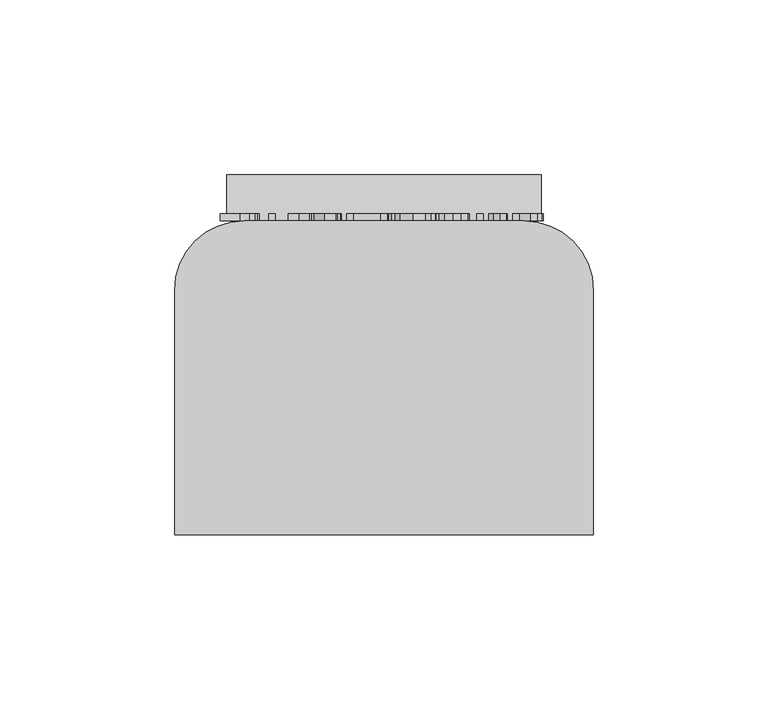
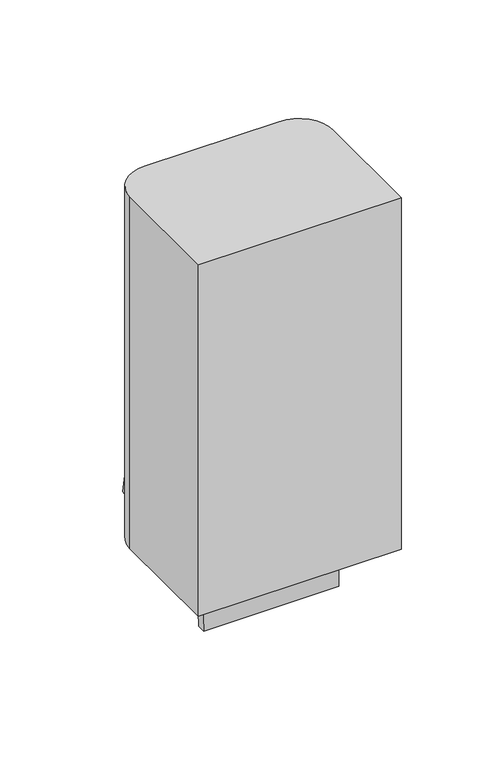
"""IFC4 building model written with IfcOpenShell, lengths in millimetres: furniture geometry, BIMHealth-Soap_Dispenser-LOD2A-v1 : BIMHealth-Soap_Dispenser-LOD2A-v1."""

from ifc_helpers import new_model, si_unit, point, frame, frame_2d, origin, place, context, project, spatial, polyline, circle_curve, trimmed, segment, composite_curve, outline, extrude, source, transform, mapped, element, save
from ifc_brep_helpers import plane_surface, cylinder_surface, advanced_brep


def furniture_4cbdd32b(model_context):
    return source(origin(), model_context, "Body", "SolidModel", [
        extrude(outline(polyline([(1382.8683672, 13.1382718), (1382.8683672, 18.7308199), (1383.1225739, 21.0980074), (1383.8725739, 22.7043776), (1385.2860355, 23.7806997), (1387.2710114, 24.2151949), (1389.5678864, 23.5787766), (1390.9452903, 21.7596661), (1392.2523816, 23.2578632), (1393.9777422, 23.7536565), (1395.8671653, 23.1641132), (1397.2031028, 21.5343055), (1397.637598, 18.7740891), (1397.637598, 13.1382718), (1382.8683672, 13.1382718)]), holes=[polyline([(1384.714521, 14.9844257), (1389.7914441, 14.9844257), (1389.7914441, 18.5901949), (1384.714521, 18.7704834), (1384.714521, 14.9844257)]), polyline([(1391.637598, 14.9844257), (1395.7914441, 14.9844257), (1395.7914441, 18.0998103), (1391.7962518, 20.3245699), (1391.637598, 18.3558199), (1391.637598, 14.9844257)])]), frame((0.0, 90.0, 0.0), z_axis=(0.0, 1.0, 0.0), x_axis=(0.0, 0.0, 1.0)), (0.0, 0.0, 1.0), 2.0),
        extrude(outline(polyline([(28.8305795, 92.0), (28.8305795, 90.0), (26.9844257, 90.0), (26.9844257, 92.0), (28.8305795, 92.0)])), frame((0.0, 0.0, 1382.8683672), z_axis=(0.0, 0.0, 1.0), x_axis=(1.0, 0.0, 0.0)), (0.0, 0.0, 1.0), 14.7692308),
        extrude(outline(polyline([(1382.8683672, 32.5228872), (1382.8683672, 34.3690411), (1395.7914441, 34.3690411), (1382.8683672, 38.0829834), (1382.8683672, 40.5817815), (1395.7914441, 44.292118), (1382.8683672, 44.292118), (1382.8683672, 46.1382718), (1397.637598, 46.1382718), (1397.637598, 42.9615891), (1387.4080307, 39.9904353), (1385.0534634, 39.3305795), (1387.2277422, 38.7175988), (1397.637598, 35.6887526), (1397.637598, 32.5228872), (1382.8683672, 32.5228872)])), frame((0.0, 90.0, 0.0), z_axis=(0.0, 1.0, 0.0), x_axis=(0.0, 0.0, 1.0)), (0.0, 0.0, 1.0), 2.0),
        extrude(outline(polyline([(1382.8683672, 49.3690411), (1382.8683672, 51.2151949), (1389.7914441, 51.2151949), (1389.7914441, 59.0613488), (1382.8683672, 59.0613488), (1382.8683672, 60.9075026), (1397.637598, 60.9075026), (1397.637598, 59.0613488), (1391.637598, 59.0613488), (1391.637598, 51.2151949), (1397.637598, 51.2151949), (1397.637598, 49.3690411), (1382.8683672, 49.3690411)])), frame((0.0, 90.0, 0.0), z_axis=(0.0, 1.0, 0.0), x_axis=(0.0, 0.0, 1.0)), (0.0, 0.0, 1.0), 2.0),
        extrude(outline(polyline([(1386.0991364, 71.5012526), (1384.8695691, 70.3113488), (1384.4837518, 68.5012526), (1385.3166845, 66.1232478), (1387.714521, 65.0613488), (1388.2121172, 73.3690411), (1392.4416845, 71.9681997), (1393.9452903, 68.3606276), (1392.4380787, 64.6466853), (1388.2012999, 63.2151949), (1384.0997374, 64.6322622), (1382.637598, 68.4651949), (1383.4849537, 71.6184401), (1385.8683672, 73.3113488), (1386.0991364, 71.5012526)]), holes=[polyline([(1389.5606749, 65.0613488), (1391.4086316, 66.0799786), (1392.0991364, 68.3534161), (1391.2337518, 70.7837045), (1389.5606749, 71.5228872), (1389.5606749, 65.0613488)])]), frame((0.0, 90.0, 0.0), z_axis=(0.0, 1.0, 0.0), x_axis=(0.0, 0.0, 1.0)), (0.0, 0.0, 1.0), 2.0),
        extrude(outline(polyline([(1383.5606749, 82.3690411), (1382.8683672, 84.4459641), (1384.4206509, 84.0781757), (1387.6279826, 83.9844257), (1389.9248576, 83.9844257), (1393.6171653, 82.0643536), (1393.9452903, 79.8269738), (1393.573896, 77.3912766), (1392.5174057, 75.7831036), (1390.714521, 74.9844257), (1391.7439682, 77.7212045), (1392.0991364, 79.588993), (1389.7914441, 82.1274545), (1389.1568287, 78.9255315), (1385.7529826, 74.7536565), (1383.5137999, 75.6893536), (1382.637598, 78.370243), (1383.0017807, 80.3480074), (1383.5606749, 82.3690411)]), holes=[polyline([(1386.9699297, 81.9868295), (1384.9254585, 80.6310603), (1384.4837518, 78.7632718), (1387.0799057, 77.5715651), (1387.3791845, 79.1599065), (1386.9699297, 81.9868295)])]), frame((0.0, 90.0, 0.0), z_axis=(0.0, 1.0, 0.0), x_axis=(0.0, 0.0, 1.0)), (0.0, 0.0, 1.0), 2.0),
        extrude(outline(polyline([(88.3690411, 92.0), (88.3690411, 90.0), (86.5228872, 90.0), (86.5228872, 92.0), (88.3690411, 92.0)])), frame((0.0, 0.0, 1382.8683672), z_axis=(0.0, 0.0, 1.0), x_axis=(1.0, 0.0, 0.0)), (0.0, 0.0, 1.0), 14.7692308),
        extrude(outline(polyline([(1385.152622, 94.1382718), (1391.8683672, 93.2151949), (1391.8683672, 95.0613488), (1393.714521, 95.0613488), (1393.714521, 93.2151949), (1397.4356749, 93.2151949), (1396.3503384, 91.3690411), (1393.714521, 89.9844257), (1391.8683672, 91.3690411), (1385.8431268, 91.3690411), (1382.8142807, 95.292118), (1385.152622, 94.1382718)])), frame((0.0, 90.0, 0.0), z_axis=(0.0, 1.0, 0.0), x_axis=(0.0, 0.0, 1.0)), (0.0, 0.0, 1.0), 2.0),
        extrude(outline(polyline([(1382.8683672, 96.9075026), (1382.8683672, 98.7536565), (1388.6303864, 98.7536565), (1392.0991364, 101.5769738), (1391.4897614, 103.2428391), (1389.542646, 103.8305795), (1382.8683672, 103.8305795), (1382.8683672, 105.6767334), (1389.7337518, 105.6767334), (1392.1604345, 105.2981276), (1393.4711316, 104.0397141), (1393.9452903, 101.9663968), (1392.2073095, 98.7536565), (1397.637598, 98.7536565), (1397.637598, 96.9075026), (1382.8683672, 96.9075026)])), frame((0.0, 90.0, 0.0), z_axis=(0.0, 1.0, 0.0), x_axis=(0.0, 0.0, 1.0)), (0.0, 0.0, 1.0), 2.0),
        extrude(outline(polyline([(1312.9452903, 36.1959641), (1310.1255787, 36.9928391), (1308.2577903, 39.0787766), (1307.637598, 42.3762526), (1308.2127182, 45.1689209), (1309.824497, 47.072767), (1312.0330307, 47.7344257), (1314.120771, 47.1593055), (1315.6171653, 45.3726468), (1316.543848, 42.1058199), (1318.855146, 38.5036565), (1320.387598, 39.3329834), (1321.0222134, 41.9760122), (1320.3803864, 44.6118295), (1318.4837518, 45.6575026), (1318.4837518, 47.5036565), (1320.7950499, 46.7716853), (1322.3419249, 44.8245699), (1322.8683672, 41.9038968), (1322.3653624, 39.167118), (1320.8906028, 37.2975266), (1318.8010595, 36.6575026), (1316.965723, 37.1749305), (1315.5919249, 38.745243), (1314.6814682, 41.6388728), (1309.8208912, 44.2332238), (1309.4837518, 42.3041372), (1309.9290643, 40.0901949), (1311.0973335, 38.6370699), (1312.9452903, 38.042118), (1312.9452903, 36.1959641)])), frame((0.0, 90.0, 0.0), z_axis=(0.0, 1.0, 0.0), x_axis=(0.0, 0.0, 1.0)), (0.0, 0.0, 1.0), 2.0),
        extrude(outline(polyline([(1313.2914441, 49.8113488), (1309.0943287, 51.150892), (1307.637598, 54.6611084), (1308.2992566, 57.1617093), (1310.1580307, 58.9050988), (1313.4428864, 59.5036565), (1317.4831509, 58.1496901), (1318.9452903, 54.6611084), (1317.7445691, 51.4087045), (1313.2914441, 49.8113488)]), holes=[polyline([(1313.2950499, 51.6575026), (1316.152622, 52.5120699), (1317.0991364, 54.6611084), (1316.1490162, 56.7975266), (1313.3527422, 57.6575026), (1310.4392807, 56.8029353), (1309.4837518, 54.6611084), (1310.433872, 52.5120699), (1313.2950499, 51.6575026)])]), frame((0.0, 90.0, 0.0), z_axis=(0.0, 1.0, 0.0), x_axis=(0.0, 0.0, 1.0)), (0.0, 0.0, 1.0), 2.0),
        extrude(outline(polyline([(1308.5606749, 68.7344257), (1307.8683672, 70.8113488), (1309.4206509, 70.4435603), (1312.6279826, 70.3498103), (1314.9248576, 70.3498103), (1318.6171653, 68.4297382), (1318.9452903, 66.1923584), (1318.573896, 63.7566613), (1317.5174057, 62.1484882), (1315.714521, 61.3498103), (1316.7439682, 64.0865891), (1317.0991364, 65.9543776), (1314.7914441, 68.4928391), (1314.1568287, 65.2909161), (1310.7529826, 61.1190411), (1308.5137999, 62.0547382), (1307.637598, 64.7356276), (1308.0017807, 66.713392), (1308.5606749, 68.7344257)]), holes=[polyline([(1311.9699297, 68.3522141), (1309.9254585, 66.9964449), (1309.4837518, 65.1286565), (1312.0799057, 63.9369497), (1312.3791845, 65.5252911), (1311.9699297, 68.3522141)])]), frame((0.0, 90.0, 0.0), z_axis=(0.0, 1.0, 0.0), x_axis=(0.0, 0.0, 1.0)), (0.0, 0.0, 1.0), 2.0),
        extrude(outline(polyline([(1303.714521, 72.8882718), (1303.714521, 74.7344257), (1309.3106749, 74.7344257), (1308.1117566, 75.9044978), (1307.637598, 77.510868), (1308.3461316, 79.8456036), (1310.3833912, 81.5367093), (1313.3743768, 82.1190411), (1316.2193287, 81.6034161), (1318.231348, 80.0745699), (1318.9452903, 77.7344257), (1318.4350739, 76.010868), (1316.9044249, 74.7344257), (1318.714521, 74.7344257), (1318.714521, 72.8882718), (1303.714521, 72.8882718)]), holes=[polyline([(1313.2049057, 74.7344257), (1316.1021412, 75.5871901), (1317.0991364, 77.5469257), (1316.1616364, 79.4688007), (1313.3419249, 80.2728872), (1310.4248576, 79.448969), (1309.4837518, 77.4712045), (1310.3924057, 75.5331036), (1313.2049057, 74.7344257)])]), frame((0.0, 90.0, 0.0), z_axis=(0.0, 1.0, 0.0), x_axis=(0.0, 0.0, 1.0)), (0.0, 0.0, 1.0), 2.0),
        extrude(outline(composite_curve([segment(trimmed(circle_curve(frame_2d((60.0, 61.6073569)), 10.0), [point((50.0, 61.6073569))], [point((70.0, 61.6073569))], False, "CARTESIAN"), True, "CONTINUOUS"), segment(trimmed(circle_curve(frame_2d((60.0, 61.6073569)), 10.0), [point((70.0, 61.6073569))], [point((50.0, 61.6073569))], False, "CARTESIAN"), True, "CONTINUOUS")], self_intersect=False)), frame((0.0, 0.0, 1190.0), z_axis=(0.0, 0.0, 1.0), x_axis=(1.0, 0.0, 0.0)), (0.0, 0.0, 1.0), 10.0),
        advanced_brep(
        [(105.0, 90.0, 1285.0), (105.0, 90.0, 1207.6681597), (105.0, 103.2245236, 1210.0), (15.0, 90.0, 1285.0), (15.0, 103.2245236, 1210.0), (15.0, 90.0, 1207.6681597), (20.0, 90.0, 1285.0), (100.0, 90.0, 1285.0), (100.0, 90.0, 1207.6681597), (20.0, 90.0, 1207.6681597), (120.0, 0.0, 1420.0), (120.0, 70.0, 1420.0), (100.0, 90.0, 1420.0), (20.0, 90.0, 1420.0), (0.0, 70.0, 1420.0), (0.0, 0.0, 1420.0), (120.0, 0.0, 1200.0), (0.0, 0.0, 1200.0), (0.0, 70.0, 1200.0), (20.0, 90.0, 1200.0), (100.0, 90.0, 1200.0), (120.0, 70.0, 1200.0)],
        [
            (0, 1),
            (1, 2),
            (2, 0),
            (3, 4),
            (4, 5),
            (5, 3),
            (2, 4),
            (3, 6),
            (6, 7),
            (7, 0),
            (1, 8),
            (8, 9),
            (9, 5),
            (7, 8),
            (9, 6),
            (10, 11),
            (11, 12, circle_curve(frame((100.0, 70.0, 1420.0), z_axis=(0.0, 0.0, 1.0), x_axis=(-1.0, 0.0, 0.0)), 20.0)),
            (12, 13),
            (13, 14, circle_curve(frame((20.0, 70.0, 1420.0), z_axis=(0.0, 0.0, 1.0), x_axis=(1.0, 0.0, 0.0)), 20.0)),
            (14, 15),
            (15, 10),
            (16, 17),
            (17, 18),
            (18, 19, circle_curve(frame((20.0, 70.0, 1200.0), z_axis=(0.0, 0.0, -1.0), x_axis=(1.0, 0.0, 0.0)), 20.0)),
            (19, 20),
            (20, 21, circle_curve(frame((100.0, 70.0, 1200.0), z_axis=(0.0, 0.0, -1.0), x_axis=(-1.0, 0.0, 0.0)), 20.0)),
            (21, 16),
            (15, 17),
            (16, 10),
            (14, 18),
            (13, 6),
            (9, 19),
            (8, 20),
            (12, 7),
            (11, 21),
        ],
        [
            plane_surface(frame((105.0, 90.0, 1285.0), z_axis=(1.0000000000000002, 0.0, 0.0), x_axis=(0.0, 0.1736481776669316, -0.9848077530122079))),
            plane_surface(frame((15.0, 90.0, 1285.0), z_axis=(-1.0000000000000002, 0.0, 0.0), x_axis=(0.0, -0.1736481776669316, 0.9848077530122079))),
            plane_surface(frame((105.0, 90.0, 1285.0), z_axis=(0.0, 0.9848077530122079, 0.1736481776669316), x_axis=(-1.0, 0.0, 0.0))),
            plane_surface(frame((105.0, 103.2245236, 1210.0), z_axis=(0.0, 0.1736481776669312, -0.9848077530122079), x_axis=(-1.0, 0.0, 0.0))),
            plane_surface(frame((105.0, 90.0, 1207.6681597), z_axis=(0.0, -1.0, 0.0), x_axis=(-1.0, 0.0, 0.0))),
            plane_surface(frame((0.0, 0.0, 1420.0), z_axis=(0.0, 0.0, 1.0), x_axis=(-1.0, 0.0, 0.0))),
            plane_surface(frame((0.0, 0.0, 1200.0), z_axis=(0.0, 0.0, -1.0), x_axis=(1.0, 0.0, 0.0))),
            plane_surface(frame((120.0, 0.0, 1420.0), z_axis=(0.0, -1.0, 0.0), x_axis=(0.0, 0.0, -1.0))),
            plane_surface(frame((0.0, 0.0, 1420.0), z_axis=(-1.0, 0.0, 0.0), x_axis=(0.0, 0.0, -1.0))),
            cylinder_surface(frame((20.0, 70.0, 1200.0), z_axis=(0.0, 0.0, 1.0), x_axis=(1.0, 0.0, 0.0)), 20.0),
            plane_surface(frame((20.0, 90.0, 1420.0), z_axis=(0.0, 1.0, 0.0), x_axis=(0.0, 0.0, -1.0))),
            cylinder_surface(frame((100.0, 70.0, 1200.0), z_axis=(0.0, 0.0, 1.0), x_axis=(-1.0, 0.0, 0.0)), 20.0),
            plane_surface(frame((120.0, 70.0, 1420.0), z_axis=(1.0, 0.0, 0.0), x_axis=(0.0, 0.0, -1.0))),
        ],
        [
            (0, [[1, 2, 3]]),
            (1, [[4, 5, 6]]),
            (2, [[7, -4, 8, 9, 10, -3]]),
            (3, [[11, 12, 13, -5, -7, -2]]),
            (4, [[-10, 14, -11, -1]]),
            (4, [[-13, 15, -8, -6]]),
            (5, [[16, 17, 18, 19, 20, 21]]),
            (6, [[22, 23, 24, 25, 26, 27]]),
            (7, [[28, -22, 29, -21]]),
            (8, [[30, -23, -28, -20]]),
            (9, [[31, -15, 32, -24, -30, -19]]),
            (10, [[-32, -12, 33, -25]]),
            (10, [[34, -9, -31, -18]]),
            (11, [[35, -26, -33, -14, -34, -17]]),
            (12, [[-29, -27, -35, -16]]),
        ],
    ),
        extrude(outline(composite_curve([segment(trimmed(circle_curve(frame_2d((-14.5207715, 1172.632854)), 44.052745), [point((29.0586666, 1166.1925961))], [point((20.0, 1200.0))], True, "CARTESIAN"), True, "CONTINUOUS"), segment(polyline([(20.0, 1200.0), (26.1880864, 1200.0)]), True, "CONTINUOUS"), segment(trimmed(circle_curve(frame_2d((-14.5207715, 1172.632854)), 49.052745), [point((26.1880864, 1200.0))], [point((34.1073569, 1166.1925961))], False, "CARTESIAN"), True, "CONTINUOUS"), segment(polyline([(34.1073569, 1166.1925961), (29.0586666, 1166.1925961)]), True, "CONTINUOUS")], self_intersect=False)), frame((20.0, 0.0, 0.0), z_axis=(1.0, 0.0, 0.0), x_axis=(0.0, 1.0, 0.0)), (0.0, 0.0, 1.0), 80.0),
    ])


if __name__ == "__main__":
    model = new_model("IFC4")
    model_context = context("Model", 3, world=origin())
    ifc_project = project(units=[si_unit("LENGTHUNIT", "METRE", prefix="MILLI")], contexts=[model_context])
    site = spatial("IfcSite", under=ifc_project)
    building = spatial("IfcBuilding", under=site)
    placement = place(None, origin())
    furniture_shape = furniture_4cbdd32b(model_context)
    element("IfcFurniture", 1, ObjectType="BIMHealth-Soap_Dispenser-LOD2A-v1 : BIMHealth-Soap_Dispenser-LOD2A-v1", at=placement, inside=building, context=model_context, shape_type="MappedRepresentation", body=[
        mapped(furniture_shape, transform((0.0, 0.0, 0.0), x_axis=(1.0, 0.0, 0.0), y_axis=(0.0, 1.0, 0.0), z_axis=(0.0, 0.0, 1.0))),
    ])
    save(model, "model.ifc")
